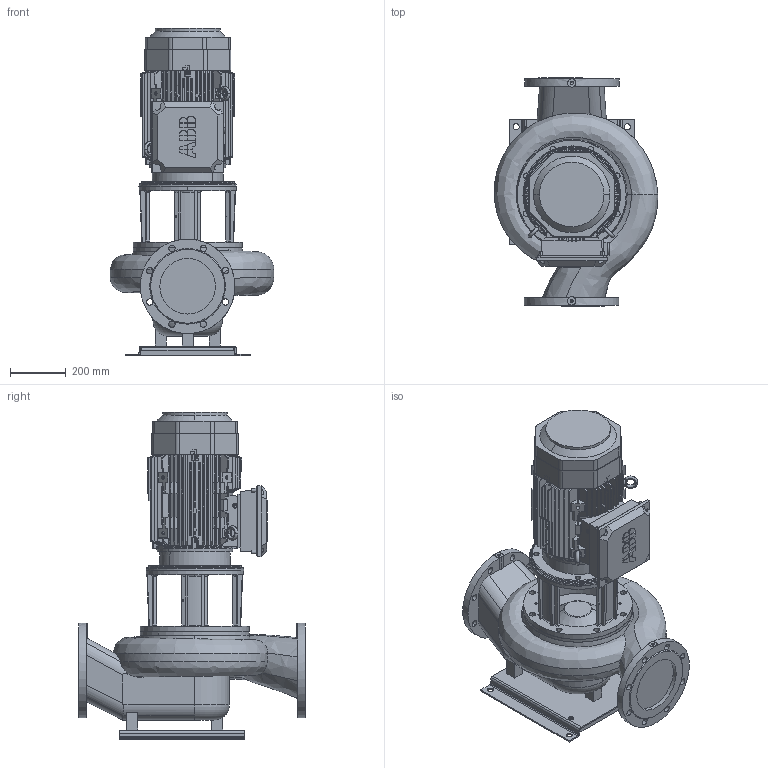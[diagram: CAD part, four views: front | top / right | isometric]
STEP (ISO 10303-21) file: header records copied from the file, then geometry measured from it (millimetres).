
FILE_DESCRIPTION(('STEP AP214'),'1');
FILE_NAME('export.stp','2018-05-29T13:47:52',(' '),(' '),'Spatial InterOp 3D',' ',' ');
FILE_SCHEMA(('AUTOMOTIVE_DESIGN { 1 0 10303 214 1 1 1 1 }'));
Length unit declared in the file: millimetre
Products named in the file (20): W_AL12026SD110; V_TLL100SAL1202; V_PPAL1202; P100464; P100462; P101191; IEC160_FRAME; P100781; IEC-160; -simplified-simplified_parts_Ter; 3GZV244000-310999-294000-299999_; -simplified-simplified_parts_Fan; -simplified-simplified_parts_M2_; -simplified-simplified_parts_Sta; Implementation-HOUSING_Lifting_E; 3GZV183002-193006-183002-183999_; 3GZV311000-999999-324000-324001_
Assembly tree (21 placements, depth 4):
  W_AL12026SD110
    V_TLL100SAL1202
    V_PPAL1202
    P100464
      P100462
      P101191  x2
    IEC160_FRAME
      P100781
      IEC-160
        -simplified-simplified_parts_Ter
        -simplified-simplified_parts_Ter
        3GZV244000-310999-294000-299999_
        -simplified-simplified_parts_Fan
        -simplified-simplified_parts_M2_
        -simplified-simplified_parts_Sta
        Implementation-HOUSING_Lifting_E  x2
        3GZV244000-310999-294000-299999_
        3GZV244000-310999-294000-299999_
        3GZV183002-193006-183002-183999_
        3GZV311000-999999-324000-324001_
Bounding box: 589.05 x 820.22 x 1178.68 mm (x, y, z)
Volume: 110373639.4 mm3; surface area: 5405441.1 mm2
Topology: 15 solids, 110 shells, 1661 faces, 4626 edges, 3097 vertices
Faces by surface type: bspline 1231, cylinder 236, plane 124, torus 40, cone 30
Entity records: 86786 total; most frequent: CARTESIAN_POINT 29748, ORIENTED_EDGE 8405, STYLED_ITEM 4535, PRESENTATION_STYLE_ASSIGNMENT 4535, COLOUR_RGB 4535, EDGE_CURVE 4409, VERTEX_POINT 2970, CURVE_STYLE 2928
